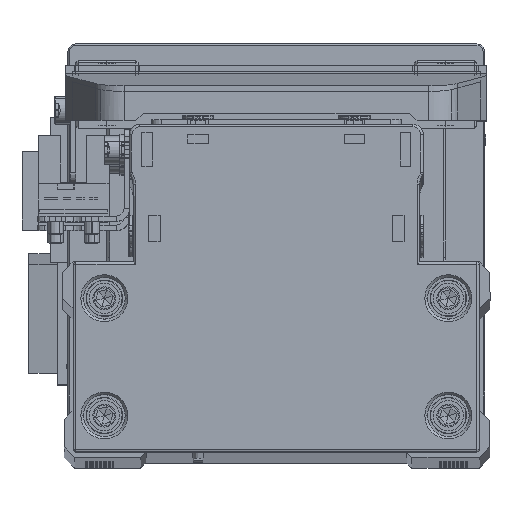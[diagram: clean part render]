
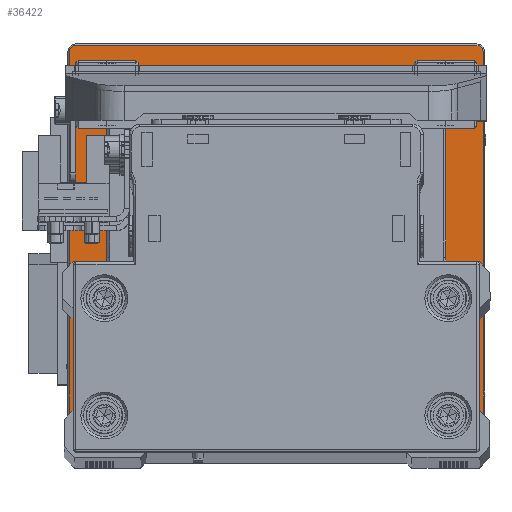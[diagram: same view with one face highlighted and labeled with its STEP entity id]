
A CAD part, top view. The second image highlights one B-rep face of the part: STEP entity #36422.
In plain terms, the highlighted planar face has unit normal (0, 0, 1) as drawn and (0, 1, 0) by its records, which use the part's own axes.
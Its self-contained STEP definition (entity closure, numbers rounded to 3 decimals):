
#204 = ORIENTED_EDGE ( 'NONE', *, *, #28637, .T. ) ;
#1358 = EDGE_CURVE ( 'NONE', #17870, #36352, #28597, .T. ) ;
#1646 = CARTESIAN_POINT ( 'NONE',  ( 39.7, 12., -38.5 ) ) ;
#1928 = AXIS2_PLACEMENT_3D ( 'NONE', #37230, #9290, #21717 ) ;
#2061 = FACE_BOUND ( 'NONE', #12451, .T. ) ;
#2394 = DIRECTION ( 'NONE',  ( 0., 1., 0. ) ) ;
#3278 = CIRCLE ( 'NONE', #26065, 1.2 ) ;
#3376 = EDGE_CURVE ( 'NONE', #30845, #19417, #19516, .T. ) ;
#3711 = EDGE_CURVE ( 'NONE', #14523, #6580, #16185, .T. ) ;
#5206 = CARTESIAN_POINT ( 'NONE',  ( 38.5, 12., 38.5 ) ) ;
#6580 = VERTEX_POINT ( 'NONE', #16647 ) ;
#6639 = LINE ( 'NONE', #19082, #37494 ) ;
#6763 = LINE ( 'NONE', #19207, #27148 ) ;
#7374 = CARTESIAN_POINT ( 'NONE',  ( 0., 12., 20.5 ) ) ;
#7675 = LINE ( 'NONE', #20120, #17230 ) ;
#7847 = EDGE_CURVE ( 'NONE', #36352, #12273, #6763, .T. ) ;
#8218 = AXIS2_PLACEMENT_3D ( 'NONE', #11846, #24270, #36701 ) ;
#8562 = DIRECTION ( 'NONE',  ( 0., 0., -1. ) ) ;
#9290 = DIRECTION ( 'NONE',  ( 0., 1., 0. ) ) ;
#9308 = VERTEX_POINT ( 'NONE', #1646 ) ;
#9363 = ORIENTED_EDGE ( 'NONE', *, *, #16349, .T. ) ;
#9583 = ORIENTED_EDGE ( 'NONE', *, *, #3376, .F. ) ;
#10004 = ORIENTED_EDGE ( 'NONE', *, *, #25458, .T. ) ;
#10087 = DIRECTION ( 'NONE',  ( -1., 0., 0. ) ) ;
#10768 = AXIS2_PLACEMENT_3D ( 'NONE', #30312, #2394, #14848 ) ;
#11030 = AXIS2_PLACEMENT_3D ( 'NONE', #24073, #36508, #8562 ) ;
#11171 = CARTESIAN_POINT ( 'NONE',  ( 38.5, 12., -38.5 ) ) ;
#11383 = EDGE_CURVE ( 'NONE', #9308, #34223, #3278, .T. ) ;
#11443 = DIRECTION ( 'NONE',  ( 0., 0., -1. ) ) ;
#11846 = CARTESIAN_POINT ( 'NONE',  ( 0., 12., 0. ) ) ;
#12273 = VERTEX_POINT ( 'NONE', #39156 ) ;
#12451 = EDGE_LOOP ( 'NONE', ( #9583, #14877 ) ) ;
#13571 = VECTOR ( 'NONE', #10087, 1000. ) ;
#14508 = PLANE ( 'NONE',  #38811 ) ;
#14523 = VERTEX_POINT ( 'NONE', #29663 ) ;
#14848 = DIRECTION ( 'NONE',  ( 0., 0., -1. ) ) ;
#14877 = ORIENTED_EDGE ( 'NONE', *, *, #36486, .F. ) ;
#16185 = CIRCLE ( 'NONE', #38953, 1.2 ) ;
#16349 = EDGE_CURVE ( 'NONE', #34223, #17870, #25579, .T. ) ;
#16511 = CARTESIAN_POINT ( 'NONE',  ( 38.5, 12., -39.7 ) ) ;
#16647 = CARTESIAN_POINT ( 'NONE',  ( 39.7, 12., 38.5 ) ) ;
#17230 = VECTOR ( 'NONE', #32555, 1000. ) ;
#17652 = DIRECTION ( 'NONE',  ( 0., 1., 0. ) ) ;
#17870 = VERTEX_POINT ( 'NONE', #23945 ) ;
#19082 = CARTESIAN_POINT ( 'NONE',  ( 39.7, 12., 0. ) ) ;
#19207 = CARTESIAN_POINT ( 'NONE',  ( -39.7, 12., 0. ) ) ;
#19417 = VERTEX_POINT ( 'NONE', #30705 ) ;
#19516 = CIRCLE ( 'NONE', #1928, 20.5 ) ;
#20120 = CARTESIAN_POINT ( 'NONE',  ( 0., 12., 39.7 ) ) ;
#21464 = ORIENTED_EDGE ( 'NONE', *, *, #3711, .T. ) ;
#21717 = DIRECTION ( 'NONE',  ( 0., 0., 1. ) ) ;
#23590 = DIRECTION ( 'NONE',  ( 0., 1., 0. ) ) ;
#23945 = CARTESIAN_POINT ( 'NONE',  ( -38.5, 12., -39.7 ) ) ;
#24073 = CARTESIAN_POINT ( 'NONE',  ( -38.5, 12., -38.5 ) ) ;
#24270 = DIRECTION ( 'NONE',  ( 0., 1., 0. ) ) ;
#25458 = EDGE_CURVE ( 'NONE', #12273, #36520, #28328, .T. ) ;
#25579 = LINE ( 'NONE', #38019, #13571 ) ;
#25783 = CIRCLE ( 'NONE', #8218, 20.5 ) ;
#26065 = AXIS2_PLACEMENT_3D ( 'NONE', #11171, #23590, #36023 ) ;
#26718 = ORIENTED_EDGE ( 'NONE', *, *, #7847, .T. ) ;
#26909 = CARTESIAN_POINT ( 'NONE',  ( 0., 12., 0. ) ) ;
#27148 = VECTOR ( 'NONE', #31643, 1000. ) ;
#28328 = CIRCLE ( 'NONE', #10768, 1.2 ) ;
#28597 = CIRCLE ( 'NONE', #11030, 1.2 ) ;
#28637 = EDGE_CURVE ( 'NONE', #36520, #14523, #7675, .T. ) ;
#29663 = CARTESIAN_POINT ( 'NONE',  ( 38.5, 12., 39.7 ) ) ;
#30004 = FACE_OUTER_BOUND ( 'NONE', #36756, .T. ) ;
#30058 = DIRECTION ( 'NONE',  ( 0., 0., -1. ) ) ;
#30312 = CARTESIAN_POINT ( 'NONE',  ( -38.5, 12., 38.5 ) ) ;
#30705 = CARTESIAN_POINT ( 'NONE',  ( 0., 12., -20.5 ) ) ;
#30845 = VERTEX_POINT ( 'NONE', #7374 ) ;
#31502 = DIRECTION ( 'NONE',  ( 0., 0., -1. ) ) ;
#31643 = DIRECTION ( 'NONE',  ( 0., 0., 1. ) ) ;
#32555 = DIRECTION ( 'NONE',  ( 1., 0., 0. ) ) ;
#33879 = CARTESIAN_POINT ( 'NONE',  ( -38.5, 12., 39.7 ) ) ;
#34223 = VERTEX_POINT ( 'NONE', #16511 ) ;
#36023 = DIRECTION ( 'NONE',  ( 0., 0., -1. ) ) ;
#36352 = VERTEX_POINT ( 'NONE', #38997 ) ;
#36422 = ADVANCED_FACE ( 'NONE', ( #30004, #2061 ), #14508, .F. ) ;
#36486 = EDGE_CURVE ( 'NONE', #19417, #30845, #25783, .T. ) ;
#36508 = DIRECTION ( 'NONE',  ( 0., 1., 0. ) ) ;
#36520 = VERTEX_POINT ( 'NONE', #33879 ) ;
#36662 = ORIENTED_EDGE ( 'NONE', *, *, #1358, .T. ) ;
#36698 = ORIENTED_EDGE ( 'NONE', *, *, #11383, .T. ) ;
#36701 = DIRECTION ( 'NONE',  ( 0., 0., 1. ) ) ;
#36756 = EDGE_LOOP ( 'NONE', ( #36698, #9363, #36662, #26718, #10004, #204, #21464, #38579 ) ) ;
#37230 = CARTESIAN_POINT ( 'NONE',  ( 0., 12., 0. ) ) ;
#37494 = VECTOR ( 'NONE', #31502, 1000. ) ;
#37597 = EDGE_CURVE ( 'NONE', #6580, #9308, #6639, .T. ) ;
#38019 = CARTESIAN_POINT ( 'NONE',  ( 0., 12., -39.7 ) ) ;
#38579 = ORIENTED_EDGE ( 'NONE', *, *, #37597, .T. ) ;
#38811 = AXIS2_PLACEMENT_3D ( 'NONE', #26909, #39367, #11443 ) ;
#38953 = AXIS2_PLACEMENT_3D ( 'NONE', #5206, #17652, #30058 ) ;
#38997 = CARTESIAN_POINT ( 'NONE',  ( -39.7, 12., -38.5 ) ) ;
#39156 = CARTESIAN_POINT ( 'NONE',  ( -39.7, 12., 38.5 ) ) ;
#39367 = DIRECTION ( 'NONE',  ( 0., -1., 0. ) ) ;
